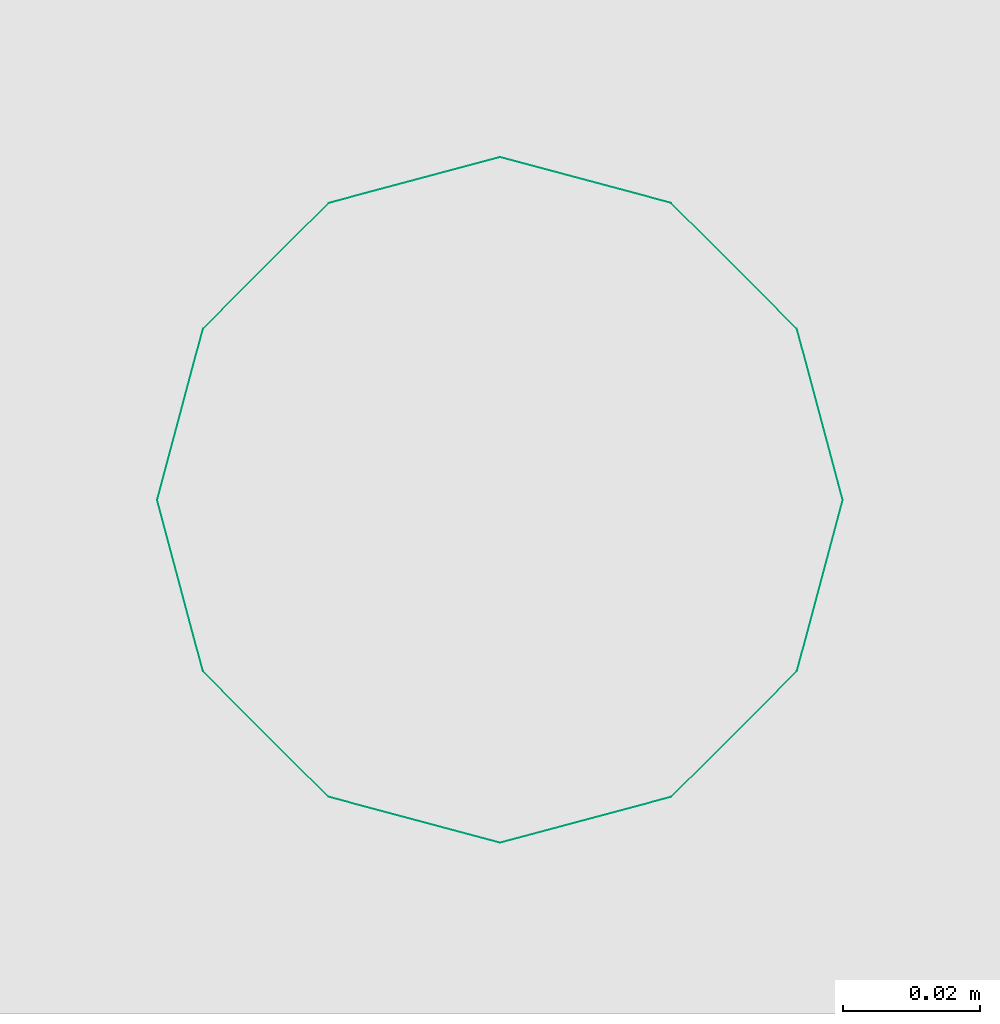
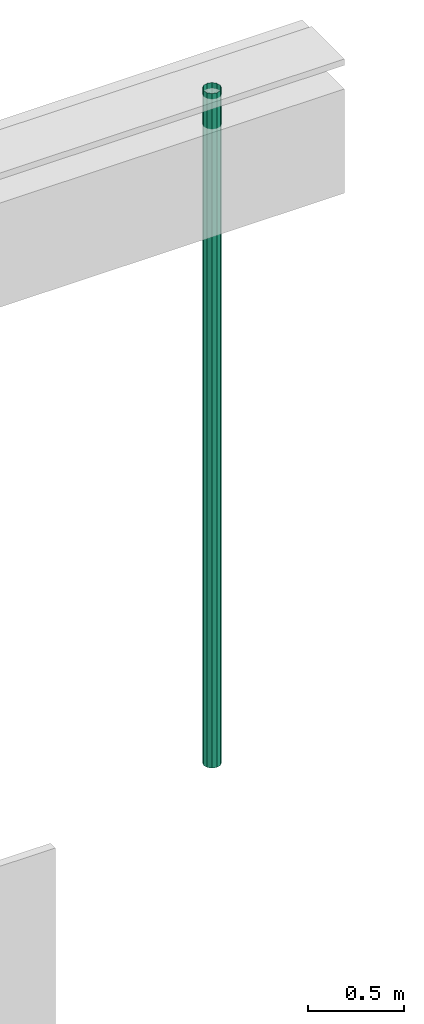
# One storey, part 50 of 54: 1 distribution flow element.
"""IFC2X3 building model written with IfcOpenShell, lengths in millimetres."""

from ifc_helpers import new_model, entity, si_unit, converted_unit, derived_unit, money_unit, direction, frame, origin_with_axes, place, context, subcontext, project, spatial, open_shell, surface_model, source, transform, mapped, type_object, type_shapes, element, save


model = new_model("IFC2X3")

# Units and contexts
model_context = context("Model", 3, precision=0.01, world=origin_with_axes(), true_north=direction((0.0, 1.0)))
body_context = subcontext(model_context, "Body", "Model", "MODEL_VIEW")
ifc_project = project(units=[si_unit("LENGTHUNIT", "METRE", prefix="MILLI"), si_unit("AREAUNIT", "SQUARE_METRE"), si_unit("VOLUMEUNIT", "CUBIC_METRE"), converted_unit("PLANEANGLEUNIT", "DEGREE", entity("IfcPlaneAngleMeasure", 0.0174532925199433), si_unit("PLANEANGLEUNIT", "RADIAN"), dimensions=[0, 0, 0, 0, 0, 0, 0]), money_unit("EUR"), converted_unit("TIMEUNIT", "Year", entity("IfcTimeMeasure", 31557600.0), si_unit("TIMEUNIT", "SECOND"), dimensions=[0, 0, 1, 0, 0, 0, 0]), si_unit("MASSUNIT", "GRAM", prefix="KILO"), si_unit("THERMODYNAMICTEMPERATUREUNIT", "DEGREE_CELSIUS"), si_unit("LUMINOUSINTENSITYUNIT", "LUMEN"), si_unit("ENERGYUNIT", "JOULE", prefix="MEGA"), derived_unit("THERMALCONDUCTANCEUNIT", [(si_unit("POWERUNIT", "WATT"), 1), (si_unit("LENGTHUNIT", "METRE"), -1), (si_unit("THERMODYNAMICTEMPERATUREUNIT", "KELVIN"), -1)]), derived_unit("SPECIFICHEATCAPACITYUNIT", [(si_unit("ENERGYUNIT", "JOULE"), 1), (si_unit("MASSUNIT", "GRAM", prefix="KILO"), -1), (si_unit("THERMODYNAMICTEMPERATUREUNIT", "KELVIN"), -1)]), derived_unit("MASSDENSITYUNIT", [(si_unit("MASSUNIT", "GRAM", prefix="KILO"), 1), (si_unit("VOLUMEUNIT", "CUBIC_METRE"), -1)])], contexts=[model_context])

# Site, building, storey
site_placement = place(None, origin_with_axes())
site = spatial("IfcSite", under=ifc_project, at=site_placement, Name="<site naam>", CompositionType="ELEMENT")
building_placement = place(site_placement, origin_with_axes())
building = spatial("IfcBuilding", under=site, at=building_placement, Name="<Naam gebouw>", CompositionType="ELEMENT")
storey_placement = place(building_placement, frame((0.0, 0.0, 8500.0), z_axis=(0.0, 0.0, 1.0), x_axis=(1.0, 0.0, 0.0)))
storey = spatial("IfcBuildingStorey", under=building, at=storey_placement, Name="02 2e verdieping", CompositionType="ELEMENT", Elevation=8500.0)

# Distribution flow element
valve_type = type_object("IfcValveType", Name="Regenpijp 27", PredefinedType="AIRRELEASE")
shared_shape = source(origin_with_axes(), body_context, "Body", "SurfaceModel", [
    surface_model("IfcShellBasedSurfaceModel", [(-50.0, -30.0, 4272.999999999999), (-50.0, -30.0, 0.0), (-43.30127018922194, -54.99999999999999, 0.0), (-43.30127018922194, -54.99999999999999, 4272.999999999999), (-43.30127018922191, -4.999999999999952, 4272.999999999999), (-43.30127018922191, -4.999999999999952, 0.0), (-25.00000000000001, -73.30127018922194, 0.0), (-25.00000000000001, -73.30127018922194, 4272.999999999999), (-24.99999999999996, 13.30127018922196, 4272.999999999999), (-24.99999999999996, 13.30127018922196, 0.0), (0.0, -80.0, 0.0), (0.0, -80.0, 4272.999999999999), (0.0, 20.0, 4272.999999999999), (0.0, 20.0, 0.0), (24.99999999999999, -73.30127018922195, 0.0), (24.99999999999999, -73.30127018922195, 4272.999999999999), (25.00000000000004, 13.30127018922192, 4272.999999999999), (25.00000000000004, 13.30127018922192, 0.0), (43.30127018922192, -55.00000000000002, 0.0), (43.30127018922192, -55.00000000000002, 4272.999999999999), (43.30127018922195, -5.000000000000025, 4272.999999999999), (43.30127018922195, -5.000000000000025, 0.0), (50.0, -30.00000000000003, 0.0), (50.0, -30.00000000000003, 4272.999999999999)], [open_shell([[[0, 1, 2, 3]], [[4, 5, 1, 0]], [[3, 2, 6, 7]], [[8, 9, 5, 4]], [[7, 6, 10, 11]], [[12, 13, 9, 8]], [[11, 10, 14, 15]], [[16, 17, 13, 12]], [[15, 14, 18, 19]], [[20, 21, 17, 16]], [[19, 18, 22, 23]], [[23, 22, 21, 20]]])]),
])
type_shapes(valve_type, [shared_shape])
distribution_flow_element_placement = place(storey_placement, frame((69225.000113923, 19929.9683199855, 0.0), z_axis=(0.0, 0.0, 1.0), x_axis=(1.0, 0.0, 0.0)))
element("IfcDistributionFlowElement", 1, at=distribution_flow_element_placement, inside=storey, type_object=valve_type, Name="52_Wasmachine_Lege", context=body_context, shape_type="MappedRepresentation", body=[
    mapped(shared_shape, transform((0.0, 0.0, 0.0))),
])

save(model, "model.ifc")
